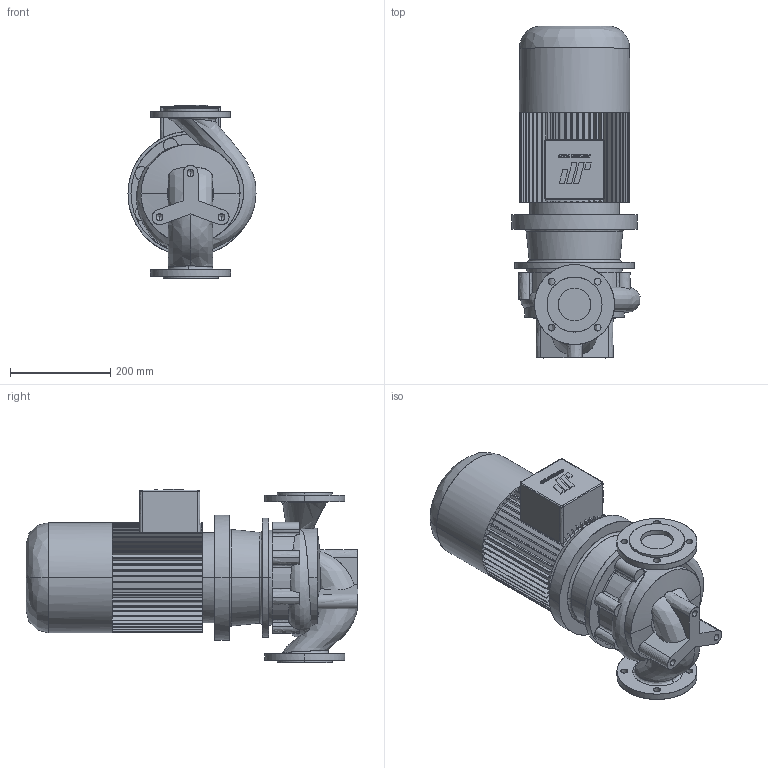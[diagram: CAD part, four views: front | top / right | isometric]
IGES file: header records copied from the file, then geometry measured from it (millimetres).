
Start section: CombiLine
Global section: file name: CLB_65-160_IEC112M.igs; native system:  By UGS Corp.; preprocessor: XPlus GENERIC/IGES 3.0; author: Stageplaats; organization: Johnson Pump Water B.V.; date: 20070713.132959; units: millimetre
Bounding box: 255.94 x 663.5 x 347 mm (x, y, z)
Surface area: 941309.5 mm2 (no closed solid volume)
Topology: 0 solids, 0 shells, 547 faces, 3328 edges, 3322 vertices
Faces by surface type: bspline 547
